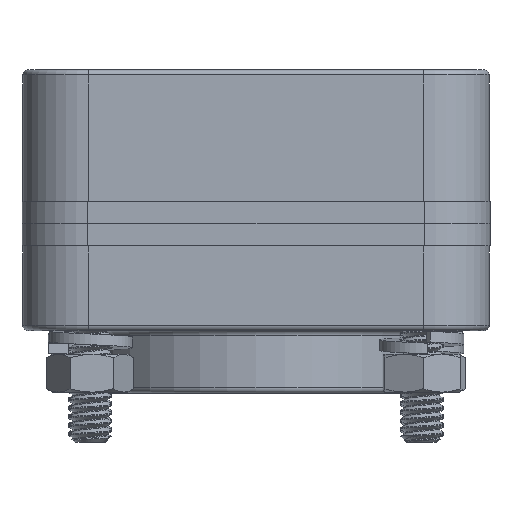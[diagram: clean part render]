
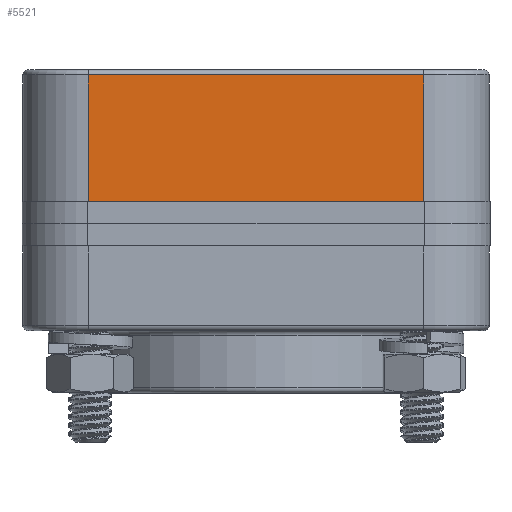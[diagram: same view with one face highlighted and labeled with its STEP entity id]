
A CAD part, left-side view. The second image highlights one B-rep face of the part: STEP entity #5521.
In plain terms, the highlighted planar face has unit normal (-1, 0, 0).
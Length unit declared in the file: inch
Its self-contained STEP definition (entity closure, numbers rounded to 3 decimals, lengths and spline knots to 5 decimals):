
#1499=PLANE('',#5837);
#1625=VECTOR('',#6404,1.);
#1628=VECTOR('',#6417,1.);
#1629=VECTOR('',#6418,1.);
#1630=VECTOR('',#6419,1.);
#1884=LINE('',#7495,#1625);
#1887=LINE('',#7506,#1628);
#1888=LINE('',#7508,#1629);
#1889=LINE('',#7510,#1630);
#2136=VERTEX_POINT('',#7480);
#2140=VERTEX_POINT('',#7492);
#2144=VERTEX_POINT('',#7507);
#2145=VERTEX_POINT('',#7509);
#2787=EDGE_CURVE('',#2136,#2140,#1884,.T.);
#2793=EDGE_CURVE('',#2144,#2136,#1887,.T.);
#2794=EDGE_CURVE('',#2144,#2145,#1888,.T.);
#2795=EDGE_CURVE('',#2145,#2140,#1889,.T.);
#3598=ORIENTED_EDGE('',*,*,#2787,.F.);
#3599=ORIENTED_EDGE('',*,*,#2793,.F.);
#3600=ORIENTED_EDGE('',*,*,#2794,.T.);
#3601=ORIENTED_EDGE('',*,*,#2795,.T.);
#4874=EDGE_LOOP('',(#3598,#3599,#3600,#3601));
#5207=FACE_BOUND('',#4874,.T.);
#5521=ADVANCED_FACE('',(#5207),#1499,.T.);
#5837=AXIS2_PLACEMENT_3D('',#7505,#6416,$);
#6404=DIRECTION('',(0.,-1.,0.));
#6416=DIRECTION('',(-1.,0.,0.));
#6417=DIRECTION('',(0.,0.,1.));
#6418=DIRECTION('',(0.,-1.,0.));
#6419=DIRECTION('',(0.,0.,1.));
#7480=CARTESIAN_POINT('',(-3.429,2.4638,1.8542));
#7492=CARTESIAN_POINT('',(-3.429,-2.4638,1.8542));
#7495=CARTESIAN_POINT('',(-3.429,0.,1.8542));
#7505=CARTESIAN_POINT('',(-3.429,0.,0.));
#7506=CARTESIAN_POINT('',(-3.429,2.4638,0.));
#7507=CARTESIAN_POINT('',(-3.429,2.4638,0.));
#7508=CARTESIAN_POINT('',(-3.429,2.4638,0.));
#7509=CARTESIAN_POINT('',(-3.429,-2.4638,0.));
#7510=CARTESIAN_POINT('',(-3.429,-2.4638,0.));
